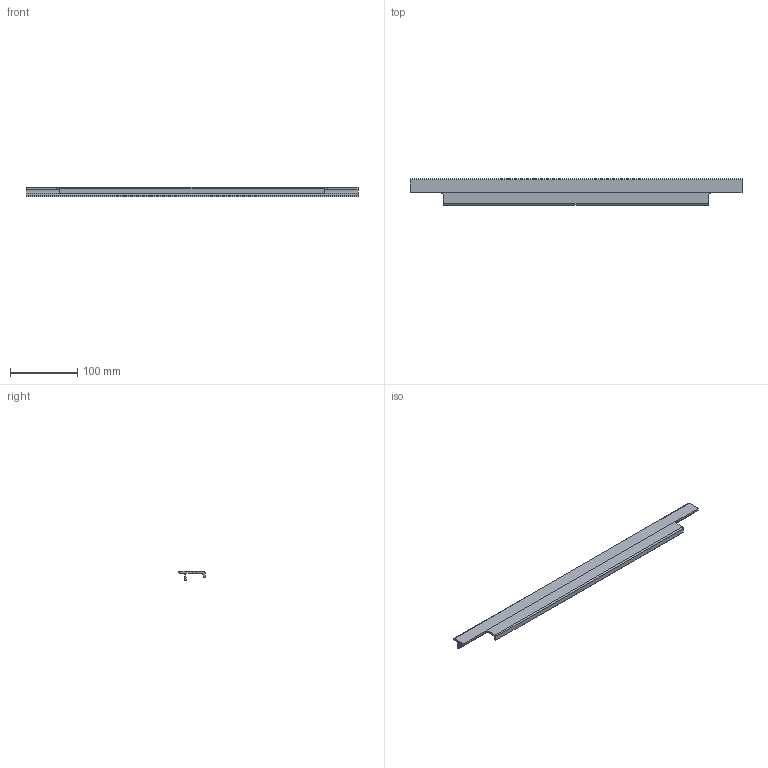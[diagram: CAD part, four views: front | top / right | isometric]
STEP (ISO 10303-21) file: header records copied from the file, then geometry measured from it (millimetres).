
FILE_DESCRIPTION( ( '' ), '1' );
FILE_NAME( 'C:/Documents and Settings/Nikhil/Desktop/Nik/Done/9105821.stp', '2013-10-23T08:20:28', ( '' ), ( '' ), ' ', ' ', ' ' );
FILE_SCHEMA( ( 'automotive_design' ) );
Length unit declared in the file: millimetre
Products named in the file (1): 1
Bounding box: 495 x 39 x 14 mm (x, y, z)
Volume: 69792.4 mm3; surface area: 53556.3 mm2
Topology: 1 solids, 1 shells, 40 faces, 112 edges, 74 vertices
Faces by surface type: plane 30, cylinder 10
Entity records: 2554 total; most frequent: STYLED_ITEM 227, PRESENTATION_STYLE_ASSIGNMENT 227, CARTESIAN_POINT 227, COLOUR_RGB 227, ORIENTED_EDGE 224, DIRECTION 214, EDGE_CURVE 112, CURVE_STYLE 112
